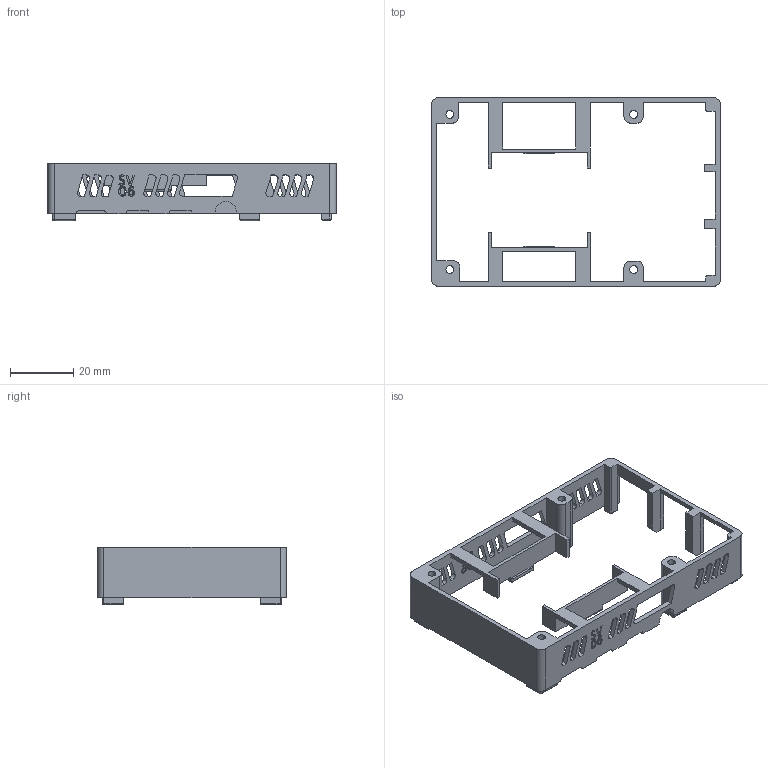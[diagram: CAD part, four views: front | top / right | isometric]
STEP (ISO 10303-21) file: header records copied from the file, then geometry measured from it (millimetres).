
FILE_DESCRIPTION(/* description */ ('STEP AP242','CAx-IF Rec.Pracs.---Representation and Presentation of Product Manufacturing Information (PMI)---4.0---2014-10-13','CAx-IF Rec.Pracs.---3D Tessellated Geometry---0.4---2014-09-14','2;1'),/* implementation_level */ '2;1');
FILE_NAME(/* name */ '652834b311c1e7075959c6bb',/* time_stamp */ '2023-10-12T18:02:28Z',/* author */ (''),/* organization */ (''),/* preprocessor_version */ 'ST-DEVELOPER v19.4',/* originating_system */ ' ',/* authorisation */ ' ');
FILE_SCHEMA (('AP242_MANAGED_MODEL_BASED_3D_ENGINEERING_MIM_LF { 1 0 10303 442 1 1 4 }'));
Length unit declared in the file: metre
Products named in the file (1): Connector
Bounding box: 91 x 59.6 x 18.3 mm (x, y, z)
Volume: 9378.3 mm3; surface area: 12490.4 mm2
Topology: 1 solids, 1 shells, 607 faces, 1766 edges, 1154 vertices
Faces by surface type: plane 264, bspline 220, cylinder 103, torus 16, sphere 4
Full cylindrical faces by diameter (mm): 2.5 x4
Entity records: 20775 total; most frequent: CARTESIAN_POINT 5970, ORIENTED_EDGE 3508, DIRECTION 2284, EDGE_CURVE 1754, VERTEX_POINT 1154, LINE 1098, VECTOR 1098, EDGE_LOOP 710
